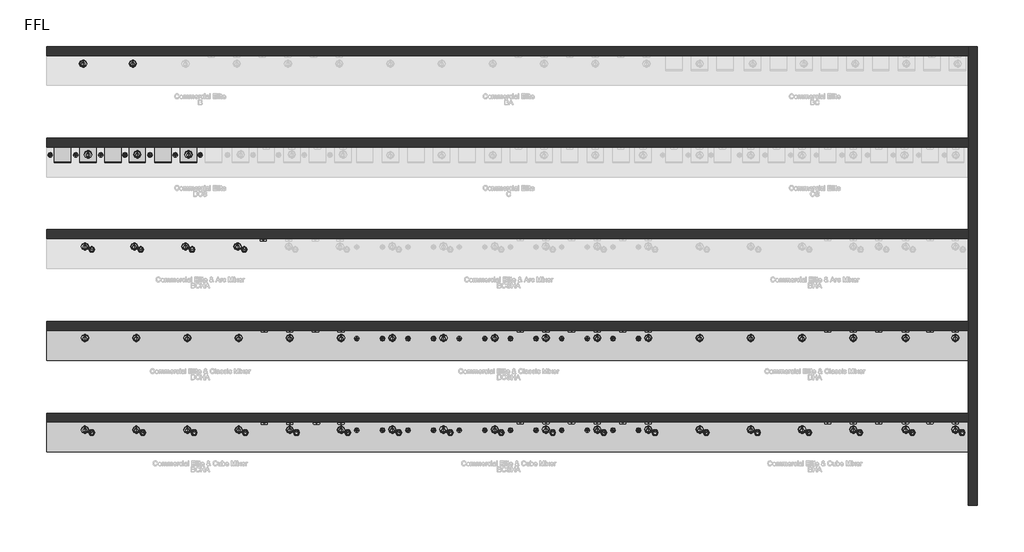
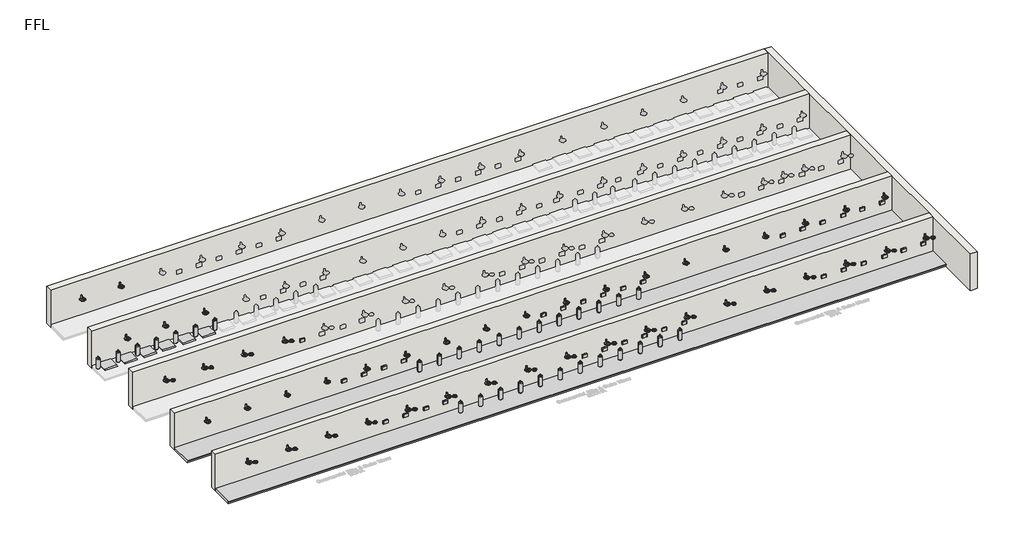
# One storey, part 1 of 13: 137 flow terminals, 6 walls, 2 furniture elements.
"""IFC4 building model written with IfcOpenShell, lengths in millimetres."""

from ifc_helpers import new_model, si_unit, origin, origin_with_axes, place, context, project, spatial, polyline, outline, extrude, faceted_brep, transform, mapped, element, save
from components import flow_terminal_1fd3c137, bright_chrome_07e2d693, brushed_chrome_743c02cf, co2_gas_cylinder_20234e14, bcs_and_bc_6de74493, generic_plinth_900mm_f1ea148c

model = new_model("IFC4")

# Units and contexts
model_context = context("Model", 3, world=origin())
ifc_project = project(units=[si_unit("LENGTHUNIT", "METRE", prefix="MILLI")], contexts=[model_context])

# Site, building, storey
site = spatial("IfcSite", under=ifc_project)
building = spatial("IfcBuilding", under=site)
storey = spatial("IfcBuildingStorey", under=building, Name="FFL", Elevation=0.0)

# Flow terminals
placement = place(None, origin())
flow_terminal_shape = flow_terminal_1fd3c137(model_context)
element("IfcFlowTerminal", 1, ObjectType="z_PlumFixt_Zenith_Booster : Booster", at=placement, inside=storey, context=model_context, shape_type="MappedRepresentation", body=[
    mapped(flow_terminal_shape, transform((19623.0147071, -3138.8106696, 498.0), x_axis=(1.0, 0.0, 0.0), y_axis=(0.0, 1.0, 0.0), z_axis=(0.0, 0.0, 1.0))),
])
element("IfcFlowTerminal", 2, ObjectType="z_PlumFixt_Zenith_Booster : Booster", at=placement, inside=storey, context=model_context, shape_type="MappedRepresentation", body=[
    mapped(flow_terminal_shape, transform((16539.6813738, -3138.8106696, 498.0), x_axis=(1.0, 0.0, 0.0), y_axis=(0.0, 1.0, 0.0), z_axis=(0.0, 0.0, 1.0))),
])
element("IfcFlowTerminal", 3, ObjectType="z_PlumFixt_Zenith_Booster : Booster", at=placement, inside=storey, context=model_context, shape_type="MappedRepresentation", body=[
    mapped(flow_terminal_shape, transform((10373.0147071, -3138.8106696, 498.0), x_axis=(1.0, 0.0, 0.0), y_axis=(0.0, 1.0, 0.0), z_axis=(0.0, 0.0, 1.0))),
])
element("IfcFlowTerminal", 4, ObjectType="z_PlumFixt_Zenith_Booster : Booster", at=placement, inside=storey, context=model_context, shape_type="MappedRepresentation", body=[
    mapped(flow_terminal_shape, transform((7289.6813738, -3138.8106696, 498.0), x_axis=(1.0, 0.0, 0.0), y_axis=(0.0, 1.0, 0.0), z_axis=(0.0, 0.0, 1.0))),
])
element("IfcFlowTerminal", 5, ObjectType="z_PlumFixt_Zenith_Booster : Booster", at=placement, inside=storey, context=model_context, shape_type="MappedRepresentation", body=[
    mapped(flow_terminal_shape, transform((1893.8480405, -378.8106696, 498.0), x_axis=(1.0, 0.0, 0.0), y_axis=(0.0, 1.0, 0.0), z_axis=(0.0, 0.0, 1.0))),
])
element("IfcFlowTerminal", 6, ObjectType="z_PlumFixt_Zenith_Booster : Booster", at=placement, inside=storey, context=model_context, shape_type="MappedRepresentation", body=[
    mapped(flow_terminal_shape, transform((1123.0147071, -378.8106696, 498.0), x_axis=(1.0, 0.0, 0.0), y_axis=(0.0, 1.0, 0.0), z_axis=(0.0, 0.0, 1.0))),
])
element("IfcFlowTerminal", 7, ObjectType="z_PlumFixt_Zenith_Booster : Booster", at=placement, inside=storey, context=model_context, shape_type="MappedRepresentation", body=[
    mapped(flow_terminal_shape, transform((352.1813738, -378.8106696, 498.0), x_axis=(1.0, 0.0, 0.0), y_axis=(0.0, 1.0, 0.0), z_axis=(0.0, 0.0, 1.0))),
])
element("IfcFlowTerminal", 8, ObjectType="z_PlumFixt_Zenith_Booster : Booster", at=placement, inside=storey, context=model_context, shape_type="MappedRepresentation", body=[
    mapped(flow_terminal_shape, transform((-418.6519595, -378.8106696, 498.0), x_axis=(1.0, 0.0, 0.0), y_axis=(0.0, 1.0, 0.0), z_axis=(0.0, 0.0, 1.0))),
])
element("IfcFlowTerminal", 9, ObjectType="z_PlumFixt_Zenith_Booster : Booster", at=placement, inside=storey, context=model_context, shape_type="MappedRepresentation", body=[
    mapped(flow_terminal_shape, transform((-450.6519595, 2365.3893304, 498.0), x_axis=(1.0, 0.0, 0.0), y_axis=(0.0, 1.0, 0.0), z_axis=(0.0, 0.0, 1.0))),
])
element("IfcFlowTerminal", 10, ObjectType="z_PlumFixt_Zenith_Booster : Booster", at=placement, inside=storey, context=model_context, shape_type="MappedRepresentation", body=[
    mapped(flow_terminal_shape, transform((-418.6519595, -3154.6106696, 498.0), x_axis=(1.0, 0.0, 0.0), y_axis=(0.0, 1.0, 0.0), z_axis=(0.0, 0.0, 1.0))),
])
element("IfcFlowTerminal", 11, ObjectType="z_PlumFixt_Zenith_Booster : Booster", at=placement, inside=storey, context=model_context, shape_type="MappedRepresentation", body=[
    mapped(flow_terminal_shape, transform((352.1813738, -3154.6106696, 498.0), x_axis=(1.0, 0.0, 0.0), y_axis=(0.0, 1.0, 0.0), z_axis=(0.0, 0.0, 1.0))),
])
element("IfcFlowTerminal", 12, ObjectType="z_PlumFixt_Zenith_Booster : Booster", at=placement, inside=storey, context=model_context, shape_type="MappedRepresentation", body=[
    mapped(flow_terminal_shape, transform((1152.1813738, -3154.6106696, 498.0), x_axis=(1.0, 0.0, 0.0), y_axis=(0.0, 1.0, 0.0), z_axis=(0.0, 0.0, 1.0))),
])
element("IfcFlowTerminal", 13, ObjectType="z_PlumFixt_Zenith_Booster : Booster", at=placement, inside=storey, context=model_context, shape_type="MappedRepresentation", body=[
    mapped(flow_terminal_shape, transform((1893.8480405, -3154.6106696, 498.0), x_axis=(1.0, 0.0, 0.0), y_axis=(0.0, 1.0, 0.0), z_axis=(0.0, 0.0, 1.0))),
])
element("IfcFlowTerminal", 14, ObjectType="z_PlumFixt_Zenith_Booster : Booster", at=placement, inside=storey, context=model_context, shape_type="MappedRepresentation", body=[
    mapped(flow_terminal_shape, transform((17310.5147071, -3138.8106696, 498.0), x_axis=(1.0, 0.0, 0.0), y_axis=(0.0, 1.0, 0.0), z_axis=(0.0, 0.0, 1.0))),
])
element("IfcFlowTerminal", 15, ObjectType="z_PlumFixt_Zenith_Booster : Booster", at=placement, inside=storey, context=model_context, shape_type="MappedRepresentation", body=[
    mapped(flow_terminal_shape, transform((18081.3480405, -3138.8106696, 498.0), x_axis=(1.0, 0.0, 0.0), y_axis=(0.0, 1.0, 0.0), z_axis=(0.0, 0.0, 1.0))),
])
element("IfcFlowTerminal", 16, ObjectType="z_PlumFixt_Zenith_Booster : Booster", at=placement, inside=storey, context=model_context, shape_type="MappedRepresentation", body=[
    mapped(flow_terminal_shape, transform((18885.5147071, -3138.8106696, 498.0), x_axis=(1.0, 0.0, 0.0), y_axis=(0.0, 1.0, 0.0), z_axis=(0.0, 0.0, 1.0))),
])
element("IfcFlowTerminal", 17, ObjectType="z_PlumFixt_Zenith_Booster : Booster", at=placement, inside=storey, context=model_context, shape_type="MappedRepresentation", body=[
    mapped(flow_terminal_shape, transform((20385.5147071, -3138.8106696, 498.0), x_axis=(1.0, 0.0, 0.0), y_axis=(0.0, 1.0, 0.0), z_axis=(0.0, 0.0, 1.0))),
])
element("IfcFlowTerminal", 18, ObjectType="z_PlumFixt_Zenith_Booster : Booster", at=placement, inside=storey, context=model_context, shape_type="MappedRepresentation", body=[
    mapped(flow_terminal_shape, transform((7289.6813738, -378.8106696, 498.0), x_axis=(1.0, 0.0, 0.0), y_axis=(0.0, 1.0, 0.0), z_axis=(0.0, 0.0, 1.0))),
])
element("IfcFlowTerminal", 19, ObjectType="z_PlumFixt_Zenith_Booster : Booster", at=placement, inside=storey, context=model_context, shape_type="MappedRepresentation", body=[
    mapped(flow_terminal_shape, transform((8060.5147071, -378.8106696, 498.0), x_axis=(1.0, 0.0, 0.0), y_axis=(0.0, 1.0, 0.0), z_axis=(0.0, 0.0, 1.0))),
])
element("IfcFlowTerminal", 20, ObjectType="z_PlumFixt_Zenith_Booster : Booster", at=placement, inside=storey, context=model_context, shape_type="MappedRepresentation", body=[
    mapped(flow_terminal_shape, transform((8831.3480405, -378.8106696, 498.0), x_axis=(1.0, 0.0, 0.0), y_axis=(0.0, 1.0, 0.0), z_axis=(0.0, 0.0, 1.0))),
])
element("IfcFlowTerminal", 21, ObjectType="z_PlumFixt_Zenith_Booster : Booster", at=placement, inside=storey, context=model_context, shape_type="MappedRepresentation", body=[
    mapped(flow_terminal_shape, transform((9602.1813738, -378.8106696, 498.0), x_axis=(1.0, 0.0, 0.0), y_axis=(0.0, 1.0, 0.0), z_axis=(0.0, 0.0, 1.0))),
])
element("IfcFlowTerminal", 22, ObjectType="z_PlumFixt_Zenith_Booster : Booster", at=placement, inside=storey, context=model_context, shape_type="MappedRepresentation", body=[
    mapped(flow_terminal_shape, transform((10373.0147071, -378.8106696, 498.0), x_axis=(1.0, 0.0, 0.0), y_axis=(0.0, 1.0, 0.0), z_axis=(0.0, 0.0, 1.0))),
])
element("IfcFlowTerminal", 23, ObjectType="z_PlumFixt_Zenith_Booster : Booster", at=placement, inside=storey, context=model_context, shape_type="MappedRepresentation", body=[
    mapped(flow_terminal_shape, transform((11143.8480405, -378.8106696, 498.0), x_axis=(1.0, 0.0, 0.0), y_axis=(0.0, 1.0, 0.0), z_axis=(0.0, 0.0, 1.0))),
])
element("IfcFlowTerminal", 24, ObjectType="z_PlumFixt_Zenith_Booster : Booster", at=placement, inside=storey, context=model_context, shape_type="MappedRepresentation", body=[
    mapped(flow_terminal_shape, transform((8060.5147071, -3138.8106696, 498.0), x_axis=(1.0, 0.0, 0.0), y_axis=(0.0, 1.0, 0.0), z_axis=(0.0, 0.0, 1.0))),
])
element("IfcFlowTerminal", 25, ObjectType="z_PlumFixt_Zenith_Booster : Booster", at=placement, inside=storey, context=model_context, shape_type="MappedRepresentation", body=[
    mapped(flow_terminal_shape, transform((8831.3480405, -3138.8106696, 498.0), x_axis=(1.0, 0.0, 0.0), y_axis=(0.0, 1.0, 0.0), z_axis=(0.0, 0.0, 1.0))),
])
element("IfcFlowTerminal", 26, ObjectType="z_PlumFixt_Zenith_Booster : Booster", at=placement, inside=storey, context=model_context, shape_type="MappedRepresentation", body=[
    mapped(flow_terminal_shape, transform((9602.1813738, -3138.8106696, 498.0), x_axis=(1.0, 0.0, 0.0), y_axis=(0.0, 1.0, 0.0), z_axis=(0.0, 0.0, 1.0))),
])
element("IfcFlowTerminal", 27, ObjectType="z_PlumFixt_Zenith_Booster : Booster", at=placement, inside=storey, context=model_context, shape_type="MappedRepresentation", body=[
    mapped(flow_terminal_shape, transform((11143.8480405, -3138.8106696, 498.0), x_axis=(1.0, 0.0, 0.0), y_axis=(0.0, 1.0, 0.0), z_axis=(0.0, 0.0, 1.0))),
])
element("IfcFlowTerminal", 28, ObjectType="z_PlumFixt_Zenith_Booster : Booster", at=placement, inside=storey, context=model_context, shape_type="MappedRepresentation", body=[
    mapped(flow_terminal_shape, transform((20385.5147071, -378.8106696, 498.0), x_axis=(1.0, 0.0, 0.0), y_axis=(0.0, 1.0, 0.0), z_axis=(0.0, 0.0, 1.0))),
])
element("IfcFlowTerminal", 29, ObjectType="z_PlumFixt_Zenith_Booster : Booster", at=placement, inside=storey, context=model_context, shape_type="MappedRepresentation", body=[
    mapped(flow_terminal_shape, transform((19623.0147071, -378.8106696, 498.0), x_axis=(1.0, 0.0, 0.0), y_axis=(0.0, 1.0, 0.0), z_axis=(0.0, 0.0, 1.0))),
])
element("IfcFlowTerminal", 30, ObjectType="z_PlumFixt_Zenith_Booster : Booster", at=placement, inside=storey, context=model_context, shape_type="MappedRepresentation", body=[
    mapped(flow_terminal_shape, transform((18885.5147071, -378.8106696, 498.0), x_axis=(1.0, 0.0, 0.0), y_axis=(0.0, 1.0, 0.0), z_axis=(0.0, 0.0, 1.0))),
])
element("IfcFlowTerminal", 31, ObjectType="z_PlumFixt_Zenith_Booster : Booster", at=placement, inside=storey, context=model_context, shape_type="MappedRepresentation", body=[
    mapped(flow_terminal_shape, transform((18081.3480405, -378.8106696, 498.0), x_axis=(1.0, 0.0, 0.0), y_axis=(0.0, 1.0, 0.0), z_axis=(0.0, 0.0, 1.0))),
])
element("IfcFlowTerminal", 32, ObjectType="z_PlumFixt_Zenith_Booster : Booster", at=placement, inside=storey, context=model_context, shape_type="MappedRepresentation", body=[
    mapped(flow_terminal_shape, transform((17310.5147071, -378.8106696, 498.0), x_axis=(1.0, 0.0, 0.0), y_axis=(0.0, 1.0, 0.0), z_axis=(0.0, 0.0, 1.0))),
])
element("IfcFlowTerminal", 33, ObjectType="z_PlumFixt_Zenith_Booster : Booster", at=placement, inside=storey, context=model_context, shape_type="MappedRepresentation", body=[
    mapped(flow_terminal_shape, transform((16539.6813738, -378.8106696, 498.0), x_axis=(1.0, 0.0, 0.0), y_axis=(0.0, 1.0, 0.0), z_axis=(0.0, 0.0, 1.0))),
])
bright_chrome_shape = bright_chrome_07e2d693(model_context)
element("IfcFlowTerminal", 34, ObjectType="z_PlumFixt_Zenith_Font and Tap Riser : Bright Chrome", at=placement, inside=storey, context=model_context, shape_type="MappedRepresentation", body=[
    mapped(bright_chrome_shape, transform((-1189.4852929, -681.0606696, 900.0), x_axis=(1.0, 0.0, 0.0), y_axis=(0.0, 1.0, 0.0), z_axis=(0.0, 0.0, 1.0))),
])
element("IfcFlowTerminal", 35, ObjectType="z_PlumFixt_Zenith_Font and Tap Riser : Bright Chrome", at=placement, inside=storey, context=model_context, shape_type="MappedRepresentation", body=[
    mapped(bright_chrome_shape, transform((1893.8480405, -681.0606696, 900.0), x_axis=(1.0, 0.0, 0.0), y_axis=(0.0, 1.0, 0.0), z_axis=(0.0, 0.0, 1.0))),
])
element("IfcFlowTerminal", 36, ObjectType="z_PlumFixt_Zenith_Font and Tap Riser : Bright Chrome", at=placement, inside=storey, context=model_context, shape_type="MappedRepresentation", body=[
    mapped(bright_chrome_shape, transform((11143.8480405, -677.5606696, 900.0), x_axis=(1.0, 0.0, 0.0), y_axis=(0.0, 1.0, 0.0), z_axis=(0.0, 0.0, 1.0))),
])
element("IfcFlowTerminal", 37, ObjectType="z_PlumFixt_Zenith_Font and Tap Riser : Bright Chrome", at=placement, inside=storey, context=model_context, shape_type="MappedRepresentation", body=[
    mapped(bright_chrome_shape, transform((20385.5147071, -3437.0606696, 900.0), x_axis=(1.0, 0.0, 0.0), y_axis=(0.0, 1.0, 0.0), z_axis=(0.0, 0.0, 1.0))),
])
element("IfcFlowTerminal", 38, ObjectType="z_PlumFixt_Zenith_Font and Tap Riser : Bright Chrome", at=placement, inside=storey, context=model_context, shape_type="MappedRepresentation", body=[
    mapped(bright_chrome_shape, transform((11143.8480405, -3437.0606696, 900.0), x_axis=(1.0, 0.0, 0.0), y_axis=(0.0, 1.0, 0.0), z_axis=(0.0, 0.0, 1.0))),
])
element("IfcFlowTerminal", 39, ObjectType="z_PlumFixt_Zenith_Font and Tap Riser : Bright Chrome", at=placement, inside=storey, context=model_context, shape_type="MappedRepresentation", body=[
    mapped(bright_chrome_shape, transform((1893.8480405, -3441.0606696, 900.0), x_axis=(1.0, 0.0, 0.0), y_axis=(0.0, 1.0, 0.0), z_axis=(0.0, 0.0, 1.0))),
])
element("IfcFlowTerminal", 40, ObjectType="z_PlumFixt_Zenith_Font and Tap Riser : Bright Chrome", at=placement, inside=storey, context=model_context, shape_type="MappedRepresentation", body=[
    mapped(bright_chrome_shape, transform((20385.5147071, -681.0606696, 900.0), x_axis=(1.0, 0.0, 0.0), y_axis=(0.0, 1.0, 0.0), z_axis=(0.0, 0.0, 1.0))),
])
element("IfcFlowTerminal", 41, ObjectType="z_PlumFixt_Zenith_Font and Tap Riser : Bright Chrome", at=placement, inside=storey, context=model_context, shape_type="MappedRepresentation", body=[
    mapped(bright_chrome_shape, transform((352.1813738, -681.0606696, 900.0), x_axis=(1.0, 0.0, 0.0), y_axis=(0.0, 1.0, 0.0), z_axis=(0.0, 0.0, 1.0))),
])
element("IfcFlowTerminal", 42, ObjectType="z_PlumFixt_Zenith_Font and Tap Riser : Bright Chrome", at=placement, inside=storey, context=model_context, shape_type="MappedRepresentation", body=[
    mapped(bright_chrome_shape, transform((9602.1813738, -677.5606696, 900.0), x_axis=(1.0, 0.0, 0.0), y_axis=(0.0, 1.0, 0.0), z_axis=(0.0, 0.0, 1.0))),
])
element("IfcFlowTerminal", 43, ObjectType="z_PlumFixt_Zenith_Font and Tap Riser : Bright Chrome", at=placement, inside=storey, context=model_context, shape_type="MappedRepresentation", body=[
    mapped(bright_chrome_shape, transform((18885.5147071, -3437.0606696, 900.0), x_axis=(1.0, 0.0, 0.0), y_axis=(0.0, 1.0, 0.0), z_axis=(0.0, 0.0, 1.0))),
])
element("IfcFlowTerminal", 44, ObjectType="z_PlumFixt_Zenith_Font and Tap Riser : Bright Chrome", at=placement, inside=storey, context=model_context, shape_type="MappedRepresentation", body=[
    mapped(bright_chrome_shape, transform((9602.1813738, -3437.0606696, 900.0), x_axis=(1.0, 0.0, 0.0), y_axis=(0.0, 1.0, 0.0), z_axis=(0.0, 0.0, 1.0))),
])
element("IfcFlowTerminal", 45, ObjectType="z_PlumFixt_Zenith_Font and Tap Riser : Bright Chrome", at=placement, inside=storey, context=model_context, shape_type="MappedRepresentation", body=[
    mapped(bright_chrome_shape, transform((352.1813738, -3441.0606696, 900.0), x_axis=(1.0, 0.0, 0.0), y_axis=(0.0, 1.0, 0.0), z_axis=(0.0, 0.0, 1.0))),
])
element("IfcFlowTerminal", 46, ObjectType="z_PlumFixt_Zenith_Font and Tap Riser : Bright Chrome", at=placement, inside=storey, context=model_context, shape_type="MappedRepresentation", body=[
    mapped(bright_chrome_shape, transform((18885.5147071, -681.0606696, 900.0), x_axis=(1.0, 0.0, 0.0), y_axis=(0.0, 1.0, 0.0), z_axis=(0.0, 0.0, 1.0))),
])
element("IfcFlowTerminal", 47, ObjectType="z_PlumFixt_Zenith_Font and Tap Riser : Bright Chrome", at=placement, inside=storey, context=model_context, shape_type="MappedRepresentation", body=[
    mapped(bright_chrome_shape, transform((-1221.4852929, 2078.9393304, 900.0), x_axis=(1.0, 0.0, 0.0), y_axis=(0.0, 1.0, 0.0), z_axis=(0.0, 0.0, 1.0))),
])
element("IfcFlowTerminal", 48, ObjectType="z_PlumFixt_Zenith_Font and Tap Riser : Bright Chrome", at=placement, inside=storey, context=model_context, shape_type="MappedRepresentation", body=[
    mapped(bright_chrome_shape, transform((17310.5147071, -3437.0606696, 900.0), x_axis=(1.0, 0.0, 0.0), y_axis=(0.0, 1.0, 0.0), z_axis=(0.0, 0.0, 1.0))),
])
element("IfcFlowTerminal", 49, ObjectType="z_PlumFixt_Zenith_Font and Tap Riser : Bright Chrome", at=placement, inside=storey, context=model_context, shape_type="MappedRepresentation", body=[
    mapped(bright_chrome_shape, transform((8060.5147071, -677.5606696, 900.0), x_axis=(1.0, 0.0, 0.0), y_axis=(0.0, 1.0, 0.0), z_axis=(0.0, 0.0, 1.0))),
])
element("IfcFlowTerminal", 50, ObjectType="z_PlumFixt_Zenith_Font and Tap Riser : Bright Chrome", at=placement, inside=storey, context=model_context, shape_type="MappedRepresentation", body=[
    mapped(bright_chrome_shape, transform((8060.5147071, -3437.0606696, 900.0), x_axis=(1.0, 0.0, 0.0), y_axis=(0.0, 1.0, 0.0), z_axis=(0.0, 0.0, 1.0))),
])
element("IfcFlowTerminal", 51, ObjectType="z_PlumFixt_Zenith_Font and Tap Riser : Bright Chrome", at=placement, inside=storey, context=model_context, shape_type="MappedRepresentation", body=[
    mapped(bright_chrome_shape, transform((-1189.4852929, -3441.0606696, 900.0), x_axis=(1.0, 0.0, 0.0), y_axis=(0.0, 1.0, 0.0), z_axis=(0.0, 0.0, 1.0))),
])
element("IfcFlowTerminal", 52, ObjectType="z_PlumFixt_Zenith_Font and Tap Riser : Bright Chrome", at=placement, inside=storey, context=model_context, shape_type="MappedRepresentation", body=[
    mapped(bright_chrome_shape, transform((17310.5147071, -681.0606696, 900.0), x_axis=(1.0, 0.0, 0.0), y_axis=(0.0, 1.0, 0.0), z_axis=(0.0, 0.0, 1.0))),
])
element("IfcFlowTerminal", 53, ObjectType="z_PlumFixt_Zenith_Font and Tap Riser : Bright Chrome", at=placement, inside=storey, context=model_context, shape_type="MappedRepresentation", body=[
    mapped(bright_chrome_shape, transform((-2731.1519595, -681.0606696, 900.0), x_axis=(1.0, 0.0, 0.0), y_axis=(0.0, 1.0, 0.0), z_axis=(0.0, 0.0, 1.0))),
])
element("IfcFlowTerminal", 54, ObjectType="z_PlumFixt_Zenith_Font and Tap Riser : Bright Chrome", at=placement, inside=storey, context=model_context, shape_type="MappedRepresentation", body=[
    mapped(bright_chrome_shape, transform((-2699.7352929, 4852.9893304, 900.0), x_axis=(1.0, 0.0, 0.0), y_axis=(0.0, 1.0, 0.0), z_axis=(0.0, 0.0, 1.0))),
])
element("IfcFlowTerminal", 55, ObjectType="z_PlumFixt_Zenith_Font and Tap Riser : Bright Chrome", at=placement, inside=storey, context=model_context, shape_type="MappedRepresentation", body=[
    mapped(bright_chrome_shape, transform((15768.8480405, -3437.0606696, 900.0), x_axis=(1.0, 0.0, 0.0), y_axis=(0.0, 1.0, 0.0), z_axis=(0.0, 0.0, 1.0))),
])
element("IfcFlowTerminal", 56, ObjectType="z_PlumFixt_Zenith_Font and Tap Riser : Bright Chrome", at=placement, inside=storey, context=model_context, shape_type="MappedRepresentation", body=[
    mapped(bright_chrome_shape, transform((6518.8480405, -677.5606696, 900.0), x_axis=(1.0, 0.0, 0.0), y_axis=(0.0, 1.0, 0.0), z_axis=(0.0, 0.0, 1.0))),
])
element("IfcFlowTerminal", 57, ObjectType="z_PlumFixt_Zenith_Font and Tap Riser : Bright Chrome", at=placement, inside=storey, context=model_context, shape_type="MappedRepresentation", body=[
    mapped(bright_chrome_shape, transform((6518.8480405, -3437.0606696, 900.0), x_axis=(1.0, 0.0, 0.0), y_axis=(0.0, 1.0, 0.0), z_axis=(0.0, 0.0, 1.0))),
])
element("IfcFlowTerminal", 58, ObjectType="z_PlumFixt_Zenith_Font and Tap Riser : Bright Chrome", at=placement, inside=storey, context=model_context, shape_type="MappedRepresentation", body=[
    mapped(bright_chrome_shape, transform((-2731.1519595, -3441.0606696, 900.0), x_axis=(1.0, 0.0, 0.0), y_axis=(0.0, 1.0, 0.0), z_axis=(0.0, 0.0, 1.0))),
])
element("IfcFlowTerminal", 59, ObjectType="z_PlumFixt_Zenith_Font and Tap Riser : Bright Chrome", at=placement, inside=storey, context=model_context, shape_type="MappedRepresentation", body=[
    mapped(bright_chrome_shape, transform((-2791.7352929, 2078.9393304, 900.0), x_axis=(1.0, 0.0, 0.0), y_axis=(0.0, 1.0, 0.0), z_axis=(0.0, 0.0, 1.0))),
])
element("IfcFlowTerminal", 60, ObjectType="z_PlumFixt_Zenith_Font and Tap Riser : Bright Chrome", at=placement, inside=storey, context=model_context, shape_type="MappedRepresentation", body=[
    mapped(bright_chrome_shape, transform((15768.8480405, -681.0606696, 900.0), x_axis=(1.0, 0.0, 0.0), y_axis=(0.0, 1.0, 0.0), z_axis=(0.0, 0.0, 1.0))),
])
element("IfcFlowTerminal", 61, ObjectType="z_PlumFixt_Zenith_Font and Tap Riser : Bright Chrome", at=placement, inside=storey, context=model_context, shape_type="MappedRepresentation", body=[
    mapped(bright_chrome_shape, transform((-4272.8186262, -681.0606696, 900.0), x_axis=(1.0, 0.0, 0.0), y_axis=(0.0, 1.0, 0.0), z_axis=(0.0, 0.0, 1.0))),
])
element("IfcFlowTerminal", 62, ObjectType="z_PlumFixt_Zenith_Font and Tap Riser : Bright Chrome", at=placement, inside=storey, context=model_context, shape_type="MappedRepresentation", body=[
    mapped(bright_chrome_shape, transform((-4376.7352929, 7588.9893304, 900.0), x_axis=(1.0, 0.0, 0.0), y_axis=(0.0, 1.0, 0.0), z_axis=(0.0, 0.0, 1.0))),
])
element("IfcFlowTerminal", 63, ObjectType="z_PlumFixt_Zenith_Font and Tap Riser : Bright Chrome", at=placement, inside=storey, context=model_context, shape_type="MappedRepresentation", body=[
    mapped(bright_chrome_shape, transform((-4240.8186262, 4852.9893304, 900.0), x_axis=(1.0, 0.0, 0.0), y_axis=(0.0, 1.0, 0.0), z_axis=(0.0, 0.0, 1.0))),
])
element("IfcFlowTerminal", 64, ObjectType="z_PlumFixt_Zenith_Font and Tap Riser : Bright Chrome", at=placement, inside=storey, context=model_context, shape_type="MappedRepresentation", body=[
    mapped(bright_chrome_shape, transform((-4332.8186262, 2078.9393304, 900.0), x_axis=(1.0, 0.0, 0.0), y_axis=(0.0, 1.0, 0.0), z_axis=(0.0, 0.0, 1.0))),
])
element("IfcFlowTerminal", 65, ObjectType="z_PlumFixt_Zenith_Font and Tap Riser : Bright Chrome", at=placement, inside=storey, context=model_context, shape_type="MappedRepresentation", body=[
    mapped(bright_chrome_shape, transform((4977.1813738, -677.5606696, 900.0), x_axis=(1.0, 0.0, 0.0), y_axis=(0.0, 1.0, 0.0), z_axis=(0.0, 0.0, 1.0))),
])
element("IfcFlowTerminal", 66, ObjectType="z_PlumFixt_Zenith_Font and Tap Riser : Bright Chrome", at=placement, inside=storey, context=model_context, shape_type="MappedRepresentation", body=[
    mapped(bright_chrome_shape, transform((14227.1813738, -3437.0606696, 900.0), x_axis=(1.0, 0.0, 0.0), y_axis=(0.0, 1.0, 0.0), z_axis=(0.0, 0.0, 1.0))),
])
element("IfcFlowTerminal", 67, ObjectType="z_PlumFixt_Zenith_Font and Tap Riser : Bright Chrome", at=placement, inside=storey, context=model_context, shape_type="MappedRepresentation", body=[
    mapped(bright_chrome_shape, transform((4977.1813738, -3437.0606696, 900.0), x_axis=(1.0, 0.0, 0.0), y_axis=(0.0, 1.0, 0.0), z_axis=(0.0, 0.0, 1.0))),
])
element("IfcFlowTerminal", 68, ObjectType="z_PlumFixt_Zenith_Font and Tap Riser : Bright Chrome", at=placement, inside=storey, context=model_context, shape_type="MappedRepresentation", body=[
    mapped(bright_chrome_shape, transform((-4272.8186262, -3441.0606696, 900.0), x_axis=(1.0, 0.0, 0.0), y_axis=(0.0, 1.0, 0.0), z_axis=(0.0, 0.0, 1.0))),
])
element("IfcFlowTerminal", 69, ObjectType="z_PlumFixt_Zenith_Font and Tap Riser : Bright Chrome", at=placement, inside=storey, context=model_context, shape_type="MappedRepresentation", body=[
    mapped(bright_chrome_shape, transform((14227.1813738, -681.0606696, 900.0), x_axis=(1.0, 0.0, 0.0), y_axis=(0.0, 1.0, 0.0), z_axis=(0.0, 0.0, 1.0))),
])
element("IfcFlowTerminal", 70, ObjectType="z_PlumFixt_Zenith_Font and Tap Riser : Bright Chrome", at=placement, inside=storey, context=model_context, shape_type="MappedRepresentation", body=[
    mapped(bright_chrome_shape, transform((-5814.4852929, -681.0606696, 900.0), x_axis=(1.0, 0.0, 0.0), y_axis=(0.0, 1.0, 0.0), z_axis=(0.0, 0.0, 1.0))),
])
element("IfcFlowTerminal", 71, ObjectType="z_PlumFixt_Zenith_Font and Tap Riser : Bright Chrome", at=placement, inside=storey, context=model_context, shape_type="MappedRepresentation", body=[
    mapped(bright_chrome_shape, transform((-5871.4852929, 7588.9893304, 900.0), x_axis=(1.0, 0.0, 0.0), y_axis=(0.0, 1.0, 0.0), z_axis=(0.0, 0.0, 1.0))),
])
element("IfcFlowTerminal", 72, ObjectType="z_PlumFixt_Zenith_Font and Tap Riser : Bright Chrome", at=placement, inside=storey, context=model_context, shape_type="MappedRepresentation", body=[
    mapped(bright_chrome_shape, transform((-5722.4852929, 4852.9893304, 900.0), x_axis=(1.0, 0.0, 0.0), y_axis=(0.0, 1.0, 0.0), z_axis=(0.0, 0.0, 1.0))),
])
element("IfcFlowTerminal", 73, ObjectType="z_PlumFixt_Zenith_Font and Tap Riser : Bright Chrome", at=placement, inside=storey, context=model_context, shape_type="MappedRepresentation", body=[
    mapped(bright_chrome_shape, transform((3435.5147071, -677.5606696, 900.0), x_axis=(1.0, 0.0, 0.0), y_axis=(0.0, 1.0, 0.0), z_axis=(0.0, 0.0, 1.0))),
])
element("IfcFlowTerminal", 74, ObjectType="z_PlumFixt_Zenith_Font and Tap Riser : Bright Chrome", at=placement, inside=storey, context=model_context, shape_type="MappedRepresentation", body=[
    mapped(bright_chrome_shape, transform((12685.5147071, -3437.0606696, 900.0), x_axis=(1.0, 0.0, 0.0), y_axis=(0.0, 1.0, 0.0), z_axis=(0.0, 0.0, 1.0))),
])
element("IfcFlowTerminal", 75, ObjectType="z_PlumFixt_Zenith_Font and Tap Riser : Bright Chrome", at=placement, inside=storey, context=model_context, shape_type="MappedRepresentation", body=[
    mapped(bright_chrome_shape, transform((3435.5147071, -3437.0606696, 900.0), x_axis=(1.0, 0.0, 0.0), y_axis=(0.0, 1.0, 0.0), z_axis=(0.0, 0.0, 1.0))),
])
element("IfcFlowTerminal", 76, ObjectType="z_PlumFixt_Zenith_Font and Tap Riser : Bright Chrome", at=placement, inside=storey, context=model_context, shape_type="MappedRepresentation", body=[
    mapped(bright_chrome_shape, transform((-5814.4852929, -3441.0606696, 900.0), x_axis=(1.0, 0.0, 0.0), y_axis=(0.0, 1.0, 0.0), z_axis=(0.0, 0.0, 1.0))),
])
element("IfcFlowTerminal", 77, ObjectType="z_PlumFixt_Zenith_Font and Tap Riser : Bright Chrome", at=placement, inside=storey, context=model_context, shape_type="MappedRepresentation", body=[
    mapped(bright_chrome_shape, transform((-5814.4852929, 2078.9393304, 900.0), x_axis=(1.0, 0.0, 0.0), y_axis=(0.0, 1.0, 0.0), z_axis=(0.0, 0.0, 1.0))),
])
element("IfcFlowTerminal", 78, ObjectType="z_PlumFixt_Zenith_Font and Tap Riser : Bright Chrome", at=placement, inside=storey, context=model_context, shape_type="MappedRepresentation", body=[
    mapped(bright_chrome_shape, transform((12685.5147071, -681.0606696, 900.0), x_axis=(1.0, 0.0, 0.0), y_axis=(0.0, 1.0, 0.0), z_axis=(0.0, 0.0, 1.0))),
])
brushed_chrome_shape = brushed_chrome_743c02cf(model_context)
element("IfcFlowTerminal", 79, ObjectType="z_PlumFixt_Zenith_Font : Brushed Chrome", at=placement, inside=storey, context=model_context, shape_type="MappedRepresentation", body=[
    mapped(brushed_chrome_shape, transform((12885.5147071, -3527.8106696, 900.0), x_axis=(1.0, 0.0, 0.0), y_axis=(0.0, 1.0, 0.0), z_axis=(0.0, 0.0, 1.0))),
])
element("IfcFlowTerminal", 80, ObjectType="z_PlumFixt_Zenith_Font : Brushed Chrome", at=placement, inside=storey, context=model_context, shape_type="MappedRepresentation", body=[
    mapped(brushed_chrome_shape, transform((3635.5147071, -3527.8106696, 900.0), x_axis=(1.0, 0.0, 0.0), y_axis=(0.0, 1.0, 0.0), z_axis=(0.0, 0.0, 1.0))),
])
element("IfcFlowTerminal", 81, ObjectType="z_PlumFixt_Zenith_Font : Brushed Chrome", at=placement, inside=storey, context=model_context, shape_type="MappedRepresentation", body=[
    mapped(brushed_chrome_shape, transform((-5614.4852929, -3527.8106696, 900.0), x_axis=(1.0, 0.0, 0.0), y_axis=(0.0, 1.0, 0.0), z_axis=(0.0, 0.0, 1.0))),
])
element("IfcFlowTerminal", 82, ObjectType="z_PlumFixt_Zenith_Font : Brushed Chrome", at=placement, inside=storey, context=model_context, shape_type="MappedRepresentation", body=[
    mapped(brushed_chrome_shape, transform((-5614.4852929, 1992.1893304, 900.0), x_axis=(1.0, 0.0, 0.0), y_axis=(0.0, 1.0, 0.0), z_axis=(0.0, 0.0, 1.0))),
])
element("IfcFlowTerminal", 83, ObjectType="z_PlumFixt_Zenith_Font : Brushed Nickel", at=placement, inside=storey, context=model_context, shape_type="MappedRepresentation", body=[
    mapped(brushed_chrome_shape, transform((-4132.8186262, 1992.1893304, 900.0), x_axis=(1.0, 0.0, 0.0), y_axis=(0.0, 1.0, 0.0), z_axis=(0.0, 0.0, 1.0))),
])
element("IfcFlowTerminal", 84, ObjectType="z_PlumFixt_Zenith_Font : Brushed Nickel", at=placement, inside=storey, context=model_context, shape_type="MappedRepresentation", body=[
    mapped(brushed_chrome_shape, transform((14427.1813738, -3527.8106696, 900.0), x_axis=(1.0, 0.0, 0.0), y_axis=(0.0, 1.0, 0.0), z_axis=(0.0, 0.0, 1.0))),
])
element("IfcFlowTerminal", 85, ObjectType="z_PlumFixt_Zenith_Font : Brushed Nickel", at=placement, inside=storey, context=model_context, shape_type="MappedRepresentation", body=[
    mapped(brushed_chrome_shape, transform((5177.1813738, -3527.8106696, 900.0), x_axis=(1.0, 0.0, 0.0), y_axis=(0.0, 1.0, 0.0), z_axis=(0.0, 0.0, 1.0))),
])
element("IfcFlowTerminal", 86, ObjectType="z_PlumFixt_Zenith_Font : Brushed Nickel", at=placement, inside=storey, context=model_context, shape_type="MappedRepresentation", body=[
    mapped(brushed_chrome_shape, transform((-4072.8186262, -3527.8106696, 900.0), x_axis=(1.0, 0.0, 0.0), y_axis=(0.0, 1.0, 0.0), z_axis=(0.0, 0.0, 1.0))),
])
co2_gas_cylinder_shape = co2_gas_cylinder_20234e14(model_context)
element("IfcFlowTerminal", 87, ObjectType="z_PlumFixt_Zenith_CO2 Gas Cylinder : CO2 Gas Cylinder", at=placement, inside=storey, context=model_context, shape_type="MappedRepresentation", body=[
    mapped(co2_gas_cylinder_shape, transform((6994.6813738, -3529.8106696, 100.0), x_axis=(-1.0, 0.0, 0.0), y_axis=(0.0, -1.0, 0.0), z_axis=(0.0, 0.0, 1.0))),
])
element("IfcFlowTerminal", 88, ObjectType="z_PlumFixt_Zenith_CO2 Gas Cylinder : CO2 Gas Cylinder", at=placement, inside=storey, context=model_context, shape_type="MappedRepresentation", body=[
    mapped(co2_gas_cylinder_shape, transform((10078.0147071, -3529.8106696, 100.0), x_axis=(-1.0, 0.0, 0.0), y_axis=(0.0, -1.0, 0.0), z_axis=(0.0, 0.0, 1.0))),
])
element("IfcFlowTerminal", 89, ObjectType="z_PlumFixt_Zenith_CO2 Gas Cylinder : CO2 Gas Cylinder", at=placement, inside=storey, context=model_context, shape_type="MappedRepresentation", body=[
    mapped(co2_gas_cylinder_shape, transform((2369.6813738, -3529.8106696, 100.0), x_axis=(-1.0, 0.0, 0.0), y_axis=(0.0, -1.0, 0.0), z_axis=(0.0, 0.0, 1.0))),
])
element("IfcFlowTerminal", 90, ObjectType="z_PlumFixt_Zenith_CO2 Gas Cylinder : CO2 Gas Cylinder", at=placement, inside=storey, context=model_context, shape_type="MappedRepresentation", body=[
    mapped(co2_gas_cylinder_shape, transform((2369.6813738, -769.8106696, 100.0), x_axis=(-1.0, 0.0, 0.0), y_axis=(0.0, -1.0, 0.0), z_axis=(0.0, 0.0, 1.0))),
])
element("IfcFlowTerminal", 91, ObjectType="z_PlumFixt_Zenith_CO2 Gas Cylinder : CO2 Gas Cylinder", at=placement, inside=storey, context=model_context, shape_type="MappedRepresentation", body=[
    mapped(co2_gas_cylinder_shape, transform((5453.0147071, -769.8106696, 100.0), x_axis=(-1.0, 0.0, 0.0), y_axis=(0.0, -1.0, 0.0), z_axis=(0.0, 0.0, 1.0))),
])
element("IfcFlowTerminal", 92, ObjectType="z_PlumFixt_Zenith_CO2 Gas Cylinder : CO2 Gas Cylinder", at=placement, inside=storey, context=model_context, shape_type="MappedRepresentation", body=[
    mapped(co2_gas_cylinder_shape, transform((-6860.3186262, 4765.7393304, 100.0), x_axis=(-1.0, 0.0, 0.0), y_axis=(0.0, -1.0, 0.0), z_axis=(0.0, 0.0, 1.0))),
])
element("IfcFlowTerminal", 93, ObjectType="z_PlumFixt_Zenith_CO2 Gas Cylinder : CO2 Gas Cylinder", at=placement, inside=storey, context=model_context, shape_type="MappedRepresentation", body=[
    mapped(co2_gas_cylinder_shape, transform((-6089.4852929, 4765.7393304, 100.0), x_axis=(-1.0, 0.0, 0.0), y_axis=(0.0, -1.0, 0.0), z_axis=(0.0, 0.0, 1.0))),
])
element("IfcFlowTerminal", 94, ObjectType="z_PlumFixt_Zenith_CO2 Gas Cylinder : CO2 Gas Cylinder", at=placement, inside=storey, context=model_context, shape_type="MappedRepresentation", body=[
    mapped(co2_gas_cylinder_shape, transform((-5338.6519595, 4765.7393304, 100.0), x_axis=(-1.0, 0.0, 0.0), y_axis=(0.0, -1.0, 0.0), z_axis=(0.0, 0.0, 1.0))),
])
element("IfcFlowTerminal", 95, ObjectType="z_PlumFixt_Zenith_CO2 Gas Cylinder : CO2 Gas Cylinder", at=placement, inside=storey, context=model_context, shape_type="MappedRepresentation", body=[
    mapped(co2_gas_cylinder_shape, transform((-4607.8186262, 4765.7393304, 100.0), x_axis=(-1.0, 0.0, 0.0), y_axis=(0.0, -1.0, 0.0), z_axis=(0.0, 0.0, 1.0))),
])
element("IfcFlowTerminal", 96, ObjectType="z_PlumFixt_Zenith_CO2 Gas Cylinder : CO2 Gas Cylinder", at=placement, inside=storey, context=model_context, shape_type="MappedRepresentation", body=[
    mapped(co2_gas_cylinder_shape, transform((-3856.9852929, 4764.2393304, 100.0), x_axis=(-1.0, 0.0, 0.0), y_axis=(0.0, -1.0, 0.0), z_axis=(0.0, 0.0, 1.0))),
])
element("IfcFlowTerminal", 97, ObjectType="z_PlumFixt_Zenith_CO2 Gas Cylinder : CO2 Gas Cylinder", at=placement, inside=storey, context=model_context, shape_type="MappedRepresentation", body=[
    mapped(co2_gas_cylinder_shape, transform((-3094.7352929, 4764.2393304, 100.0), x_axis=(-1.0, 0.0, 0.0), y_axis=(0.0, -1.0, 0.0), z_axis=(0.0, 0.0, 1.0))),
])
element("IfcFlowTerminal", 98, ObjectType="z_PlumFixt_Zenith_CO2 Gas Cylinder : CO2 Gas Cylinder", at=placement, inside=storey, context=model_context, shape_type="MappedRepresentation", body=[
    mapped(co2_gas_cylinder_shape, transform((-2344.7352929, 4764.2393304, 100.0), x_axis=(-1.0, 0.0, 0.0), y_axis=(0.0, -1.0, 0.0), z_axis=(0.0, 0.0, 1.0))),
])
element("IfcFlowTerminal", 99, ObjectType="z_PlumFixt_Zenith_CO2 Gas Cylinder : CO2 Gas Cylinder", at=placement, inside=storey, context=model_context, shape_type="MappedRepresentation", body=[
    mapped(co2_gas_cylinder_shape, transform((4682.1813738, -769.8106696, 100.0), x_axis=(-1.0, 0.0, 0.0), y_axis=(0.0, -1.0, 0.0), z_axis=(0.0, 0.0, 1.0))),
])
element("IfcFlowTerminal", 100, ObjectType="z_PlumFixt_Zenith_CO2 Gas Cylinder : CO2 Gas Cylinder", at=placement, inside=storey, context=model_context, shape_type="MappedRepresentation", body=[
    mapped(co2_gas_cylinder_shape, transform((3911.3480405, -769.8106696, 100.0), x_axis=(-1.0, 0.0, 0.0), y_axis=(0.0, -1.0, 0.0), z_axis=(0.0, 0.0, 1.0))),
])
element("IfcFlowTerminal", 101, ObjectType="z_PlumFixt_Zenith_CO2 Gas Cylinder : CO2 Gas Cylinder", at=placement, inside=storey, context=model_context, shape_type="MappedRepresentation", body=[
    mapped(co2_gas_cylinder_shape, transform((3140.5147071, -769.8106696, 100.0), x_axis=(-1.0, 0.0, 0.0), y_axis=(0.0, -1.0, 0.0), z_axis=(0.0, 0.0, 1.0))),
])
element("IfcFlowTerminal", 102, ObjectType="z_PlumFixt_Zenith_CO2 Gas Cylinder : CO2 Gas Cylinder", at=placement, inside=storey, context=model_context, shape_type="MappedRepresentation", body=[
    mapped(co2_gas_cylinder_shape, transform((6223.8480405, -769.8106696, 100.0), x_axis=(-1.0, 0.0, 0.0), y_axis=(0.0, -1.0, 0.0), z_axis=(0.0, 0.0, 1.0))),
])
element("IfcFlowTerminal", 103, ObjectType="z_PlumFixt_Zenith_CO2 Gas Cylinder : CO2 Gas Cylinder", at=placement, inside=storey, context=model_context, shape_type="MappedRepresentation", body=[
    mapped(co2_gas_cylinder_shape, transform((6994.6813738, -769.8106696, 100.0), x_axis=(-1.0, 0.0, 0.0), y_axis=(0.0, -1.0, 0.0), z_axis=(0.0, 0.0, 1.0))),
])
element("IfcFlowTerminal", 104, ObjectType="z_PlumFixt_Zenith_CO2 Gas Cylinder : CO2 Gas Cylinder", at=placement, inside=storey, context=model_context, shape_type="MappedRepresentation", body=[
    mapped(co2_gas_cylinder_shape, transform((7765.5147071, -769.8106696, 100.0), x_axis=(-1.0, 0.0, 0.0), y_axis=(0.0, -1.0, 0.0), z_axis=(0.0, 0.0, 1.0))),
])
element("IfcFlowTerminal", 105, ObjectType="z_PlumFixt_Zenith_CO2 Gas Cylinder : CO2 Gas Cylinder", at=placement, inside=storey, context=model_context, shape_type="MappedRepresentation", body=[
    mapped(co2_gas_cylinder_shape, transform((8536.3480405, -769.8106696, 100.0), x_axis=(-1.0, 0.0, 0.0), y_axis=(0.0, -1.0, 0.0), z_axis=(0.0, 0.0, 1.0))),
])
element("IfcFlowTerminal", 106, ObjectType="z_PlumFixt_Zenith_CO2 Gas Cylinder : CO2 Gas Cylinder", at=placement, inside=storey, context=model_context, shape_type="MappedRepresentation", body=[
    mapped(co2_gas_cylinder_shape, transform((9307.1813738, -769.8106696, 100.0), x_axis=(-1.0, 0.0, 0.0), y_axis=(0.0, -1.0, 0.0), z_axis=(0.0, 0.0, 1.0))),
])
element("IfcFlowTerminal", 107, ObjectType="z_PlumFixt_Zenith_CO2 Gas Cylinder : CO2 Gas Cylinder", at=placement, inside=storey, context=model_context, shape_type="MappedRepresentation", body=[
    mapped(co2_gas_cylinder_shape, transform((10078.0147071, -769.8106696, 100.0), x_axis=(-1.0, 0.0, 0.0), y_axis=(0.0, -1.0, 0.0), z_axis=(0.0, 0.0, 1.0))),
])
element("IfcFlowTerminal", 108, ObjectType="z_PlumFixt_Zenith_CO2 Gas Cylinder : CO2 Gas Cylinder", at=placement, inside=storey, context=model_context, shape_type="MappedRepresentation", body=[
    mapped(co2_gas_cylinder_shape, transform((10848.8480405, -769.8106696, 100.0), x_axis=(-1.0, 0.0, 0.0), y_axis=(0.0, -1.0, 0.0), z_axis=(0.0, 0.0, 1.0))),
])
element("IfcFlowTerminal", 109, ObjectType="z_PlumFixt_Zenith_CO2 Gas Cylinder : CO2 Gas Cylinder", at=placement, inside=storey, context=model_context, shape_type="MappedRepresentation", body=[
    mapped(co2_gas_cylinder_shape, transform((6223.8480405, -3529.8106696, 100.0), x_axis=(-1.0, 0.0, 0.0), y_axis=(0.0, -1.0, 0.0), z_axis=(0.0, 0.0, 1.0))),
])
element("IfcFlowTerminal", 110, ObjectType="z_PlumFixt_Zenith_CO2 Gas Cylinder : CO2 Gas Cylinder", at=placement, inside=storey, context=model_context, shape_type="MappedRepresentation", body=[
    mapped(co2_gas_cylinder_shape, transform((5453.0147071, -3529.8106696, 100.0), x_axis=(-1.0, 0.0, 0.0), y_axis=(0.0, -1.0, 0.0), z_axis=(0.0, 0.0, 1.0))),
])
element("IfcFlowTerminal", 111, ObjectType="z_PlumFixt_Zenith_CO2 Gas Cylinder : CO2 Gas Cylinder", at=placement, inside=storey, context=model_context, shape_type="MappedRepresentation", body=[
    mapped(co2_gas_cylinder_shape, transform((4682.1813738, -3529.8106696, 100.0), x_axis=(-1.0, 0.0, 0.0), y_axis=(0.0, -1.0, 0.0), z_axis=(0.0, 0.0, 1.0))),
])
element("IfcFlowTerminal", 112, ObjectType="z_PlumFixt_Zenith_CO2 Gas Cylinder : CO2 Gas Cylinder", at=placement, inside=storey, context=model_context, shape_type="MappedRepresentation", body=[
    mapped(co2_gas_cylinder_shape, transform((3911.3480405, -3529.8106696, 100.0), x_axis=(-1.0, 0.0, 0.0), y_axis=(0.0, -1.0, 0.0), z_axis=(0.0, 0.0, 1.0))),
])
element("IfcFlowTerminal", 113, ObjectType="z_PlumFixt_Zenith_CO2 Gas Cylinder : CO2 Gas Cylinder", at=placement, inside=storey, context=model_context, shape_type="MappedRepresentation", body=[
    mapped(co2_gas_cylinder_shape, transform((3140.5147071, -3529.8106696, 100.0), x_axis=(-1.0, 0.0, 0.0), y_axis=(0.0, -1.0, 0.0), z_axis=(0.0, 0.0, 1.0))),
])
element("IfcFlowTerminal", 114, ObjectType="z_PlumFixt_Zenith_CO2 Gas Cylinder : CO2 Gas Cylinder", at=placement, inside=storey, context=model_context, shape_type="MappedRepresentation", body=[
    mapped(co2_gas_cylinder_shape, transform((7765.5147071, -3529.8106696, 100.0), x_axis=(-1.0, 0.0, 0.0), y_axis=(0.0, -1.0, 0.0), z_axis=(0.0, 0.0, 1.0))),
])
element("IfcFlowTerminal", 115, ObjectType="z_PlumFixt_Zenith_CO2 Gas Cylinder : CO2 Gas Cylinder", at=placement, inside=storey, context=model_context, shape_type="MappedRepresentation", body=[
    mapped(co2_gas_cylinder_shape, transform((8536.3480405, -3529.8106696, 100.0), x_axis=(-1.0, 0.0, 0.0), y_axis=(0.0, -1.0, 0.0), z_axis=(0.0, 0.0, 1.0))),
])
element("IfcFlowTerminal", 116, ObjectType="z_PlumFixt_Zenith_CO2 Gas Cylinder : CO2 Gas Cylinder", at=placement, inside=storey, context=model_context, shape_type="MappedRepresentation", body=[
    mapped(co2_gas_cylinder_shape, transform((9307.1813738, -3529.8106696, 100.0), x_axis=(-1.0, 0.0, 0.0), y_axis=(0.0, -1.0, 0.0), z_axis=(0.0, 0.0, 1.0))),
])
element("IfcFlowTerminal", 117, ObjectType="z_PlumFixt_Zenith_CO2 Gas Cylinder : CO2 Gas Cylinder", at=placement, inside=storey, context=model_context, shape_type="MappedRepresentation", body=[
    mapped(co2_gas_cylinder_shape, transform((10848.8480405, -3529.8106696, 100.0), x_axis=(-1.0, 0.0, 0.0), y_axis=(0.0, -1.0, 0.0), z_axis=(0.0, 0.0, 1.0))),
])
bcs_and_bc_shape = bcs_and_bc_6de74493(model_context)
element("IfcFlowTerminal", 118, ObjectType="z_PlumFixt_Zenith_Vent Tray : CS and C", at=placement, inside=storey, context=model_context, shape_type="MappedRepresentation", body=[
    mapped(bcs_and_bc_shape, transform((-6493.3186262, 4960.7393304, 100.0), x_axis=(1.0, 0.0, 0.0), y_axis=(0.0, 1.0, 0.0), z_axis=(0.0, 0.0, 1.0))),
])
element("IfcFlowTerminal", 119, ObjectType="z_PlumFixt_Zenith_Vent Tray : CS and C", at=placement, inside=storey, context=model_context, shape_type="MappedRepresentation", body=[
    mapped(bcs_and_bc_shape, transform((-5722.4852929, 4960.7393304, 100.0), x_axis=(1.0, 0.0, 0.0), y_axis=(0.0, 1.0, 0.0), z_axis=(0.0, 0.0, 1.0))),
])
element("IfcFlowTerminal", 120, ObjectType="z_PlumFixt_Zenith_Vent Tray : CS and C", at=placement, inside=storey, context=model_context, shape_type="MappedRepresentation", body=[
    mapped(bcs_and_bc_shape, transform((-4971.6519595, 4960.7393304, 100.0), x_axis=(1.0, 0.0, 0.0), y_axis=(0.0, 1.0, 0.0), z_axis=(0.0, 0.0, 1.0))),
])
element("IfcFlowTerminal", 121, ObjectType="z_PlumFixt_Zenith_Vent Tray : CS and C", at=placement, inside=storey, context=model_context, shape_type="MappedRepresentation", body=[
    mapped(bcs_and_bc_shape, transform((-4240.8186262, 4960.7393304, 100.0), x_axis=(1.0, 0.0, 0.0), y_axis=(0.0, 1.0, 0.0), z_axis=(0.0, 0.0, 1.0))),
])
element("IfcFlowTerminal", 122, ObjectType="z_PlumFixt_Zenith_Vent Tray : CS and C", at=placement, inside=storey, context=model_context, shape_type="MappedRepresentation", body=[
    mapped(bcs_and_bc_shape, transform((-3461.9852929, 4960.7393304, 100.0), x_axis=(1.0, 0.0, 0.0), y_axis=(0.0, 1.0, 0.0), z_axis=(0.0, 0.0, 1.0))),
])
element("IfcFlowTerminal", 123, ObjectType="z_PlumFixt_Zenith_Vent Tray : CS and C", at=placement, inside=storey, context=model_context, shape_type="MappedRepresentation", body=[
    mapped(bcs_and_bc_shape, transform((-2699.7352929, 4960.7393304, 100.0), x_axis=(1.0, 0.0, 0.0), y_axis=(0.0, 1.0, 0.0), z_axis=(0.0, 0.0, 1.0))),
])
element("IfcFlowTerminal", 124, ObjectType="z_PlumFixt_Zenith_Font : Gloss Black", at=placement, inside=storey, context=model_context, shape_type="MappedRepresentation", body=[
    mapped(brushed_chrome_shape, transform((15968.8480405, -3527.8106696, 900.0), x_axis=(1.0, 0.0, 0.0), y_axis=(0.0, 1.0, 0.0), z_axis=(0.0, 0.0, 1.0))),
])
element("IfcFlowTerminal", 125, ObjectType="z_PlumFixt_Zenith_Font : Gloss Black", at=placement, inside=storey, context=model_context, shape_type="MappedRepresentation", body=[
    mapped(brushed_chrome_shape, transform((6718.8480405, -3527.8106696, 900.0), x_axis=(1.0, 0.0, 0.0), y_axis=(0.0, 1.0, 0.0), z_axis=(0.0, 0.0, 1.0))),
])
element("IfcFlowTerminal", 126, ObjectType="z_PlumFixt_Zenith_Font : Gloss Black", at=placement, inside=storey, context=model_context, shape_type="MappedRepresentation", body=[
    mapped(brushed_chrome_shape, transform((-2531.1519595, -3527.8106696, 900.0), x_axis=(1.0, 0.0, 0.0), y_axis=(0.0, 1.0, 0.0), z_axis=(0.0, 0.0, 1.0))),
])
element("IfcFlowTerminal", 127, ObjectType="z_PlumFixt_Zenith_Font : Gloss Black", at=placement, inside=storey, context=model_context, shape_type="MappedRepresentation", body=[
    mapped(brushed_chrome_shape, transform((-2591.7352929, 1992.1893304, 900.0), x_axis=(1.0, 0.0, 0.0), y_axis=(0.0, 1.0, 0.0), z_axis=(0.0, 0.0, 1.0))),
])
element("IfcFlowTerminal", 128, ObjectType="z_PlumFixt_Zenith_Font : Gunmetal", at=placement, inside=storey, context=model_context, shape_type="MappedRepresentation", body=[
    mapped(brushed_chrome_shape, transform((-1021.4852929, 1992.1893304, 900.0), x_axis=(1.0, 0.0, 0.0), y_axis=(0.0, 1.0, 0.0), z_axis=(0.0, 0.0, 1.0))),
])
element("IfcFlowTerminal", 129, ObjectType="z_PlumFixt_Zenith_Font : Gunmetal", at=placement, inside=storey, context=model_context, shape_type="MappedRepresentation", body=[
    mapped(brushed_chrome_shape, transform((17510.5147071, -3527.8106696, 900.0), x_axis=(1.0, 0.0, 0.0), y_axis=(0.0, 1.0, 0.0), z_axis=(0.0, 0.0, 1.0))),
])
element("IfcFlowTerminal", 130, ObjectType="z_PlumFixt_Zenith_Font : Gunmetal", at=placement, inside=storey, context=model_context, shape_type="MappedRepresentation", body=[
    mapped(brushed_chrome_shape, transform((8260.5147071, -3527.8106696, 900.0), x_axis=(1.0, 0.0, 0.0), y_axis=(0.0, 1.0, 0.0), z_axis=(0.0, 0.0, 1.0))),
])
element("IfcFlowTerminal", 131, ObjectType="z_PlumFixt_Zenith_Font : Gunmetal", at=placement, inside=storey, context=model_context, shape_type="MappedRepresentation", body=[
    mapped(brushed_chrome_shape, transform((-989.4852929, -3527.8106696, 900.0), x_axis=(1.0, 0.0, 0.0), y_axis=(0.0, 1.0, 0.0), z_axis=(0.0, 0.0, 1.0))),
])
element("IfcFlowTerminal", 132, ObjectType="z_PlumFixt_Zenith_Font : Nickel", at=placement, inside=storey, context=model_context, shape_type="MappedRepresentation", body=[
    mapped(brushed_chrome_shape, transform((19085.5147071, -3527.8106696, 900.0), x_axis=(1.0, 0.0, 0.0), y_axis=(0.0, 1.0, 0.0), z_axis=(0.0, 0.0, 1.0))),
])
element("IfcFlowTerminal", 133, ObjectType="z_PlumFixt_Zenith_Font : Nickel", at=placement, inside=storey, context=model_context, shape_type="MappedRepresentation", body=[
    mapped(brushed_chrome_shape, transform((9802.1813738, -3527.8106696, 900.0), x_axis=(1.0, 0.0, 0.0), y_axis=(0.0, 1.0, 0.0), z_axis=(0.0, 0.0, 1.0))),
])
element("IfcFlowTerminal", 134, ObjectType="z_PlumFixt_Zenith_Font : Nickel", at=placement, inside=storey, context=model_context, shape_type="MappedRepresentation", body=[
    mapped(brushed_chrome_shape, transform((552.1813738, -3527.8106696, 900.0), x_axis=(1.0, 0.0, 0.0), y_axis=(0.0, 1.0, 0.0), z_axis=(0.0, 0.0, 1.0))),
])
element("IfcFlowTerminal", 135, ObjectType="z_PlumFixt_Zenith_Font : Rose Gold", at=placement, inside=storey, context=model_context, shape_type="MappedRepresentation", body=[
    mapped(brushed_chrome_shape, transform((20585.5147071, -3527.8106696, 900.0), x_axis=(1.0, 0.0, 0.0), y_axis=(0.0, 1.0, 0.0), z_axis=(0.0, 0.0, 1.0))),
])
element("IfcFlowTerminal", 136, ObjectType="z_PlumFixt_Zenith_Font : Rose Gold", at=placement, inside=storey, context=model_context, shape_type="MappedRepresentation", body=[
    mapped(brushed_chrome_shape, transform((11343.8480405, -3527.8106696, 900.0), x_axis=(1.0, 0.0, 0.0), y_axis=(0.0, 1.0, 0.0), z_axis=(0.0, 0.0, 1.0))),
])
element("IfcFlowTerminal", 137, ObjectType="z_PlumFixt_Zenith_Font : Rose Gold", at=placement, inside=storey, context=model_context, shape_type="MappedRepresentation", body=[
    mapped(brushed_chrome_shape, transform((2093.8480405, -3527.8106696, 900.0), x_axis=(1.0, 0.0, 0.0), y_axis=(0.0, 1.0, 0.0), z_axis=(0.0, 0.0, 1.0))),
])

# Furniture
generic_plinth_900mm_shape = generic_plinth_900mm_f1ea148c(model_context)
element("IfcFurniture", 138, ObjectType="Generic Plinth : 900mm", at=placement, inside=storey, context=model_context, shape_type="MappedRepresentation", body=[
    mapped(generic_plinth_900mm_shape, transform((6886.5270022, -431.7606696, 0.0), x_axis=(1.0, 0.0, 0.0), y_axis=(0.0, 1.0, 0.0), z_axis=(0.0, 0.0, 1.0))),
])
element("IfcFurniture", 139, ObjectType="Generic Plinth : 900mm", at=placement, inside=storey, context=model_context, shape_type="MappedRepresentation", body=[
    mapped(generic_plinth_900mm_shape, transform((6886.5270022, -3191.7606696, 0.0), x_axis=(1.0, 0.0, 0.0), y_axis=(0.0, 1.0, 0.0), z_axis=(0.0, 0.0, 1.0))),
])

# Walls
element("IfcWall", 140, ObjectType="Brick veneer - 250 timber", at=placement, inside=storey, context=model_context, shape_type="SweptSolid", body=[
    extrude(outline(polyline([(-6969.7352929, -2941.7606696), (20780.2647071, -2941.7606696), (20780.2647071, -3191.7606696), (-6969.7352929, -3191.7606696), (-6969.7352929, -2941.7606696)])), origin_with_axes(), (0.0, 0.0, 1.0), 1500.0),
])
element("IfcWall", 141, ObjectType="Double brick - 270", at=placement, inside=storey, context=model_context, shape_type="Brep", body=[
    faceted_brep([(21050.2647071, -5701.7606696, 0.0), (21050.2647071, 8118.2393304, 0.0), (21050.2647071, 8118.2393304, 1500.0), (21050.2647071, -5701.7606696, 1500.0), (20780.2647071, -5701.7606696, 0.0), (20780.2647071, -5701.7606696, 1500.0), (20780.2647071, -3191.7606696, 1500.0), (20780.2647071, -2941.7606696, 1500.0), (20780.2647071, -431.7606696, 1500.0), (20780.2647071, -161.7606696, 1500.0), (20780.2647071, 2328.2393304, 1500.0), (20780.2647071, 2598.2393304, 1500.0), (20780.2647071, 5088.2393304, 1500.0), (20780.2647071, 5358.2393304, 1500.0), (20780.2647071, 7848.2393304, 1500.0), (20780.2647071, 8118.2393304, 1500.0), (20780.2647071, 8118.2393304, 0.0), (20780.2647071, 7848.2393304, 0.0), (20780.2647071, 5358.2393304, 0.0), (20780.2647071, 5088.2393304, 0.0), (20780.2647071, 2598.2393304, 0.0), (20780.2647071, 2328.2393304, 0.0), (20780.2647071, -161.7606696, 0.0), (20780.2647071, -431.7606696, 0.0), (20780.2647071, -2941.7606696, 0.0), (20780.2647071, -3191.7606696, 0.0)], [[[0, 1, 2, 3]], [[4, 5, 6, 7, 8, 9, 10, 11, 12, 13, 14, 15, 16, 17, 18, 19, 20, 21, 22, 23, 24, 25]], [[1, 0, 4, 25, 24, 23, 22, 21, 20, 19, 18, 17, 16]], [[3, 2, 15, 14, 13, 12, 11, 10, 9, 8, 7, 6, 5]], [[0, 3, 5, 4]], [[2, 1, 16, 15]]]),
])
element("IfcWall", 142, ObjectType="Double brick - 270", at=placement, inside=storey, context=model_context, shape_type="SweptSolid", body=[
    extrude(outline(polyline([(20780.2647071, 7848.2393304), (-6969.7352929, 7848.2393304), (-6969.7352929, 8118.2393304), (20780.2647071, 8118.2393304), (20780.2647071, 7848.2393304)])), origin_with_axes(), (0.0, 0.0, 1.0), 1500.0),
])
element("IfcWall", 143, ObjectType="Double brick - 270", at=placement, inside=storey, context=model_context, shape_type="SweptSolid", body=[
    extrude(outline(polyline([(20780.2647071, 5088.2393304), (-6969.7352929, 5088.2393304), (-6969.7352929, 5358.2393304), (20780.2647071, 5358.2393304), (20780.2647071, 5088.2393304)])), origin_with_axes(), (0.0, 0.0, 1.0), 1500.0),
])
element("IfcWall", 144, ObjectType="Double brick - 270", at=placement, inside=storey, context=model_context, shape_type="SweptSolid", body=[
    extrude(outline(polyline([(20780.2647071, 2328.2393304), (-6969.7352929, 2328.2393304), (-6969.7352929, 2598.2393304), (20780.2647071, 2598.2393304), (20780.2647071, 2328.2393304)])), origin_with_axes(), (0.0, 0.0, 1.0), 1500.0),
])
element("IfcWall", 145, ObjectType="Double brick - 270", at=placement, inside=storey, context=model_context, shape_type="SweptSolid", body=[
    extrude(outline(polyline([(20780.2647071, -431.7606696), (-6969.7352929, -431.7606696), (-6969.7352929, -161.7606696), (20780.2647071, -161.7606696), (20780.2647071, -431.7606696)])), origin_with_axes(), (0.0, 0.0, 1.0), 1500.0),
])

save(model, "model.ifc")
